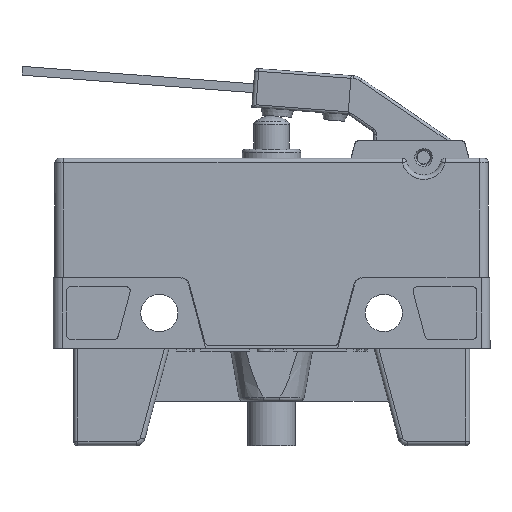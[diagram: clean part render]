
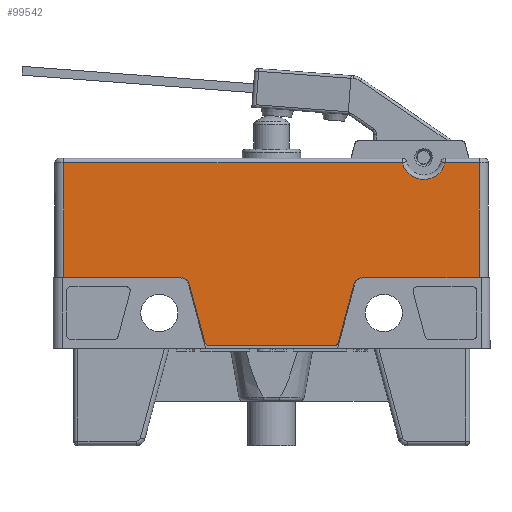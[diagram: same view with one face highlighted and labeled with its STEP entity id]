
A CAD part, left-side view. The second image highlights one B-rep face of the part: STEP entity #99542.
In plain terms, the highlighted planar face has unit normal (-1, 0, 0).
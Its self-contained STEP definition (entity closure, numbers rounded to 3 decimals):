
#97854=CARTESIAN_POINT('',(-8.5,-11.267,4.));
#97855=VERTEX_POINT('',#97854);
#97862=CARTESIAN_POINT('',(-8.5,-10.267,4.));
#97863=VERTEX_POINT('',#97862);
#97864=CARTESIAN_POINT('',(-8.5,-11.267,4.));
#97865=DIRECTION('',(0.0,1.0,0.0));
#97866=VECTOR('',#97865,1.);
#97867=LINE('',#97864,#97866);
#97868=EDGE_CURVE('',#97855,#97863,#97867,.T.);
#97886=CARTESIAN_POINT('',(-8.5,10.267,4.));
#97887=VERTEX_POINT('',#97886);
#97894=CARTESIAN_POINT('',(-8.5,11.267,4.));
#97895=VERTEX_POINT('',#97894);
#97896=CARTESIAN_POINT('',(-8.5,10.267,4.));
#97897=DIRECTION('',(0.0,1.0,0.0));
#97898=VECTOR('',#97897,1.);
#97899=LINE('',#97896,#97898);
#97900=EDGE_CURVE('',#97887,#97895,#97899,.T.);
#98182=CARTESIAN_POINT('',(-8.5,-9.301,3.259));
#98183=VERTEX_POINT('',#98182);
#98184=CARTESIAN_POINT('',(-8.5,-10.267,3.));
#98185=DIRECTION('',(-1.,0.,0.));
#98186=DIRECTION('',(0.,0.966,0.259));
#98187=AXIS2_PLACEMENT_3D('',#98184,#98185,#98186);
#98188=CIRCLE('',#98187,1.0);
#98189=EDGE_CURVE('',#97863,#98183,#98188,.T.);
#98231=CARTESIAN_POINT('',(-8.5,-23.5,3.908));
#98232=VERTEX_POINT('',#98231);
#98240=CARTESIAN_POINT('',(-8.5,-23.5,3.908));
#98241=DIRECTION('',(0.0,1.,0.008));
#98242=VECTOR('',#98241,12.233);
#98243=LINE('',#98240,#98242);
#98244=EDGE_CURVE('',#98232,#97855,#98243,.T.);
#98263=CARTESIAN_POINT('',(-8.5,-7.536,-3.329));
#98264=VERTEX_POINT('',#98263);
#98265=CARTESIAN_POINT('',(-8.5,-9.301,3.259));
#98266=DIRECTION('',(0.0,0.259,-0.966));
#98267=VECTOR('',#98266,6.821);
#98268=LINE('',#98265,#98267);
#98269=EDGE_CURVE('',#98183,#98264,#98268,.T.);
#98295=CARTESIAN_POINT('',(-8.5,-7.053,-3.7));
#98296=VERTEX_POINT('',#98295);
#98297=CARTESIAN_POINT('',(-8.5,-7.053,-3.2));
#98298=DIRECTION('',(1.0,0.,0.));
#98299=DIRECTION('',(0.,0.966,0.259));
#98300=AXIS2_PLACEMENT_3D('',#98297,#98298,#98299);
#98301=CIRCLE('',#98300,0.5);
#98302=EDGE_CURVE('',#98264,#98296,#98301,.T.);
#98327=CARTESIAN_POINT('',(-8.5,7.053,-3.7));
#98328=VERTEX_POINT('',#98327);
#98329=CARTESIAN_POINT('',(-8.5,-7.053,-3.7));
#98330=DIRECTION('',(0.0,1.0,0.0));
#98331=VECTOR('',#98330,14.106);
#98332=LINE('',#98329,#98331);
#98333=EDGE_CURVE('',#98296,#98328,#98332,.T.);
#98359=CARTESIAN_POINT('',(-8.5,7.536,-3.329));
#98360=VERTEX_POINT('',#98359);
#98361=CARTESIAN_POINT('',(-8.5,7.053,-3.2));
#98362=DIRECTION('',(1.0,0.0,0.0));
#98363=DIRECTION('',(0.0,0.0,1.0));
#98364=AXIS2_PLACEMENT_3D('',#98361,#98362,#98363);
#98365=CIRCLE('',#98364,0.5);
#98366=EDGE_CURVE('',#98328,#98360,#98365,.T.);
#98391=CARTESIAN_POINT('',(-8.5,9.301,3.259));
#98392=VERTEX_POINT('',#98391);
#98393=CARTESIAN_POINT('',(-8.5,7.536,-3.329));
#98394=DIRECTION('',(0.0,0.259,0.966));
#98395=VECTOR('',#98394,6.821);
#98396=LINE('',#98393,#98395);
#98397=EDGE_CURVE('',#98360,#98392,#98396,.T.);
#98421=CARTESIAN_POINT('',(-8.5,10.267,3.));
#98422=DIRECTION('',(-1.0,0.0,0.0));
#98423=DIRECTION('',(0.0,0.0,1.0));
#98424=AXIS2_PLACEMENT_3D('',#98421,#98422,#98423);
#98425=CIRCLE('',#98424,1.);
#98426=EDGE_CURVE('',#98392,#97887,#98425,.T.);
#98438=CARTESIAN_POINT('',(-8.5,23.5,3.908));
#98439=VERTEX_POINT('',#98438);
#98440=CARTESIAN_POINT('',(-8.5,11.267,4.));
#98441=DIRECTION('',(0.0,1.,-0.008));
#98442=VECTOR('',#98441,12.233);
#98443=LINE('',#98440,#98442);
#98444=EDGE_CURVE('',#97895,#98439,#98443,.T.);
#99485=CARTESIAN_POINT('',(-8.5,0.,8.9));
#99486=DIRECTION('',(1.0,0.0,0.0));
#99487=DIRECTION('',(0.0,1.0,0.0));
#99488=AXIS2_PLACEMENT_3D('',#99485,#99486,#99487);
#99489=PLANE('',#99488);
#99490=CARTESIAN_POINT('',(-8.5,23.5,17.));
#99491=VERTEX_POINT('',#99490);
#99492=CARTESIAN_POINT('',(-8.5,-14.773,17.));
#99493=VERTEX_POINT('',#99492);
#99494=CARTESIAN_POINT('',(-8.5,23.5,17.));
#99495=DIRECTION('',(0.0,-1.0,0.0));
#99496=VECTOR('',#99495,38.273);
#99497=LINE('',#99494,#99496);
#99498=EDGE_CURVE('',#99491,#99493,#99497,.T.);
#99499=ORIENTED_EDGE('',*,*,#99498,.F.);
#99500=CARTESIAN_POINT('',(-8.5,23.5,3.908));
#99501=DIRECTION('',(0.0,0.0,1.0));
#99502=VECTOR('',#99501,13.092);
#99503=LINE('',#99500,#99502);
#99504=EDGE_CURVE('',#98439,#99491,#99503,.T.);
#99505=ORIENTED_EDGE('',*,*,#99504,.F.);
#99506=ORIENTED_EDGE('',*,*,#98444,.F.);
#99507=ORIENTED_EDGE('',*,*,#97900,.F.);
#99508=ORIENTED_EDGE('',*,*,#98426,.F.);
#99509=ORIENTED_EDGE('',*,*,#98397,.F.);
#99510=ORIENTED_EDGE('',*,*,#98366,.F.);
#99511=ORIENTED_EDGE('',*,*,#98333,.F.);
#99512=ORIENTED_EDGE('',*,*,#98302,.F.);
#99513=ORIENTED_EDGE('',*,*,#98269,.F.);
#99514=ORIENTED_EDGE('',*,*,#98189,.F.);
#99515=ORIENTED_EDGE('',*,*,#97868,.F.);
#99516=ORIENTED_EDGE('',*,*,#98244,.F.);
#99517=CARTESIAN_POINT('',(-8.5,-23.5,17.));
#99518=VERTEX_POINT('',#99517);
#99519=CARTESIAN_POINT('',(-8.5,-23.5,17.));
#99520=DIRECTION('',(0.0,0.0,-1.0));
#99521=VECTOR('',#99520,13.092);
#99522=LINE('',#99519,#99521);
#99523=EDGE_CURVE('',#99518,#98232,#99522,.T.);
#99524=ORIENTED_EDGE('',*,*,#99523,.F.);
#99525=CARTESIAN_POINT('',(-8.5,-19.627,17.));
#99526=VERTEX_POINT('',#99525);
#99527=CARTESIAN_POINT('',(-8.5,-19.627,17.));
#99528=DIRECTION('',(0.0,-1.0,0.0));
#99529=VECTOR('',#99528,3.873);
#99530=LINE('',#99527,#99529);
#99531=EDGE_CURVE('',#99526,#99518,#99530,.T.);
#99532=ORIENTED_EDGE('',*,*,#99531,.F.);
#99533=CARTESIAN_POINT('',(-8.5,-17.2,17.6));
#99534=DIRECTION('',(-1.0,0.0,0.0));
#99535=DIRECTION('',(0.0,0.0,-1.0));
#99536=AXIS2_PLACEMENT_3D('',#99533,#99534,#99535);
#99537=CIRCLE('',#99536,2.5);
#99538=EDGE_CURVE('',#99493,#99526,#99537,.T.);
#99539=ORIENTED_EDGE('',*,*,#99538,.F.);
#99540=EDGE_LOOP('',(#99499,#99505,#99506,#99507,#99508,#99509,#99510,#99511,#99512,#99513,#99514,#99515,#99516,#99524,#99532,#99539));
#99541=FACE_OUTER_BOUND('',#99540,.T.);
#99542=ADVANCED_FACE('',(#99541),#99489,.F.);
